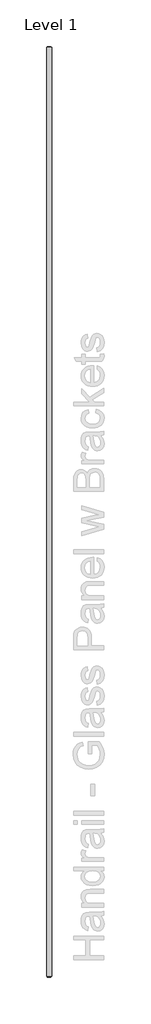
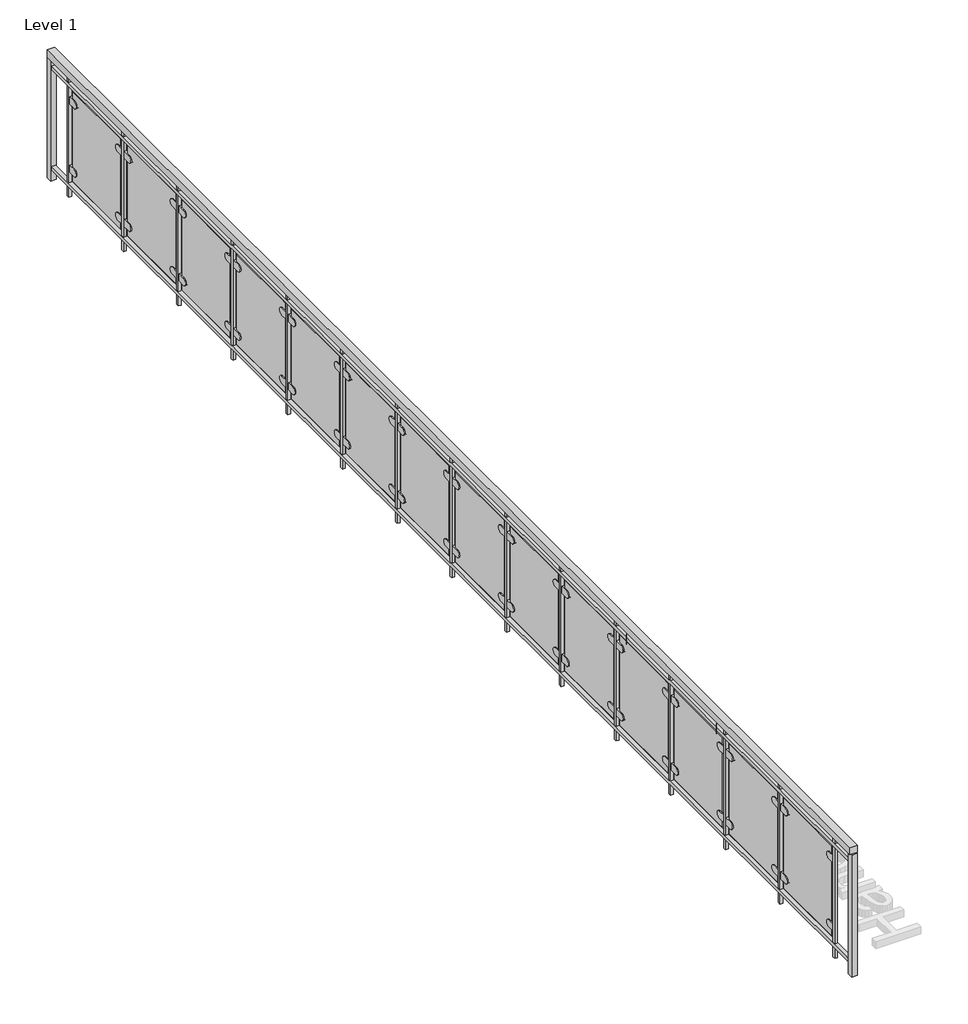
# One storey, part 3 of 14: 1 railing.
"""IFC4 building model written with IfcOpenShell, lengths in millimetres."""

from ifc_helpers import new_model, si_unit, point, frame, frame_2d, origin, origin_with_axes, place, context, project, spatial, polyline, circle_curve, trimmed, segment, composite_curve, outline, extrude, element, save

model = new_model("IFC4")

# Units and contexts
model_context = context("Model", 3, world=origin())
ifc_project = project(units=[si_unit("LENGTHUNIT", "METRE", prefix="MILLI")], contexts=[model_context])

# Site, building, storey
site = spatial("IfcSite", under=ifc_project)
building = spatial("IfcBuilding", under=site)
storey = spatial("IfcBuildingStorey", under=building, Name="Level 1", Elevation=0.0)

# Railing
placement = place(None, origin())
element("IfcRailing", 1, ObjectType="Handrail - Glass Panel w Brackets", at=placement, inside=storey, context=model_context, shape_type="SweptSolid", body=[
    extrude(outline(polyline([(-15264.3978678, -5345.4143828), (-15213.5978678, -5345.4143828), (-15213.5978678, -14660.8643828), (-15264.3978678, -14660.8643828), (-15264.3978678, -5345.4143828)])), frame((0.0, 0.0, 863.6), z_axis=(0.0, 0.0, 1.0), x_axis=(1.0, 0.0, 0.0)), (0.0, 0.0, 1.0), 50.8),
    extrude(outline(polyline([(-15251.6978678, -5345.4143828), (-15226.2978678, -5345.4143828), (-15226.2978678, -14660.8643828), (-15251.6978678, -14660.8643828), (-15251.6978678, -5345.4143828)])), frame((0.0, 0.0, 787.4), z_axis=(0.0, 0.0, 1.0), x_axis=(1.0, 0.0, 0.0)), (0.0, 0.0, 1.0), 25.4),
    extrude(outline(polyline([(-15251.6978678, -5345.4143828), (-15226.2978678, -5345.4143828), (-15226.2978678, -14660.8643828), (-15251.6978678, -14660.8643828), (-15251.6978678, -5345.4143828)])), frame((0.0, 0.0, 76.2), z_axis=(0.0, 0.0, 1.0), x_axis=(1.0, 0.0, 0.0)), (0.0, 0.0, 1.0), 25.4),
    extrude(outline(polyline([(-15248.5228678, -14438.6143828), (-15229.4728678, -14438.6143828), (-15229.4728678, -14457.6643828), (-15248.5228678, -14457.6643828), (-15248.5228678, -14438.6143828)])), origin_with_axes(), (0.0, 0.0, 1.0), 863.6),
    extrude(outline(composite_curve([segment(trimmed(circle_curve(frame_2d((-14384.6393828, 685.8)), 25.4), [point((-14384.6393828, 711.2))], [point((-14384.6393828, 660.4))], False, "CARTESIAN"), True, "CONTINUOUS"), segment(polyline([(-14384.6393828, 660.4), (-14435.4393828, 660.4), (-14435.4393828, 711.2), (-14384.6393828, 711.2)]), True, "CONTINUOUS")], self_intersect=False)), frame((-15245.3478678, 0.0, 0.0), z_axis=(1.0, 0.0, 0.0), x_axis=(0.0, 1.0, 0.0)), (0.0, 0.0, 1.0), 19.05),
    extrude(outline(composite_curve([segment(polyline([(-13876.6393828, 711.2), (-13825.8393828, 711.2), (-13825.8393828, 660.4), (-13876.6393828, 660.4)]), True, "CONTINUOUS"), segment(trimmed(circle_curve(frame_2d((-13876.6393828, 685.8)), 25.4), [point((-13876.6393828, 660.4))], [point((-13876.6393828, 711.2))], False, "CARTESIAN"), True, "CONTINUOUS")], self_intersect=False)), frame((-15245.3478678, 0.0, 0.0), z_axis=(1.0, 0.0, 0.0), x_axis=(0.0, 1.0, 0.0)), (0.0, 0.0, 1.0), 19.05),
    extrude(outline(composite_curve([segment(trimmed(circle_curve(frame_2d((-14384.6393828, 203.2)), 25.4), [point((-14384.6393828, 228.6))], [point((-14384.6393828, 177.8))], False, "CARTESIAN"), True, "CONTINUOUS"), segment(polyline([(-14384.6393828, 177.8), (-14435.4393828, 177.8), (-14435.4393828, 228.6), (-14384.6393828, 228.6)]), True, "CONTINUOUS")], self_intersect=False)), frame((-15245.3478678, 0.0, 0.0), z_axis=(1.0, 0.0, 0.0), x_axis=(0.0, 1.0, 0.0)), (0.0, 0.0, 1.0), 19.05),
    extrude(outline(composite_curve([segment(polyline([(-13876.6393828, 228.6), (-13825.8393828, 228.6), (-13825.8393828, 177.8), (-13876.6393828, 177.8)]), True, "CONTINUOUS"), segment(trimmed(circle_curve(frame_2d((-13876.6393828, 203.2)), 25.4), [point((-13876.6393828, 177.8))], [point((-13876.6393828, 228.6))], False, "CARTESIAN"), True, "CONTINUOUS")], self_intersect=False)), frame((-15245.3478678, 0.0, 0.0), z_axis=(1.0, 0.0, 0.0), x_axis=(0.0, 1.0, 0.0)), (0.0, 0.0, 1.0), 19.05),
    extrude(outline(polyline([(-15232.6478678, -13851.2393828), (-15232.6478678, -14410.0393828), (-15238.9978678, -14410.0393828), (-15238.9978678, -13851.2393828), (-15232.6478678, -13851.2393828)])), frame((0.0, 0.0, 127.0), z_axis=(0.0, 0.0, 1.0), x_axis=(1.0, 0.0, 0.0)), (0.0, 0.0, 1.0), 635.0),
    extrude(outline(polyline([(-15248.5228678, -13803.6143828), (-15229.4728678, -13803.6143828), (-15229.4728678, -13822.6643828), (-15248.5228678, -13822.6643828), (-15248.5228678, -13803.6143828)])), origin_with_axes(), (0.0, 0.0, 1.0), 863.6),
    extrude(outline(composite_curve([segment(trimmed(circle_curve(frame_2d((-13749.6393828, 685.8)), 25.4), [point((-13749.6393828, 711.2))], [point((-13749.6393828, 660.4))], False, "CARTESIAN"), True, "CONTINUOUS"), segment(polyline([(-13749.6393828, 660.4), (-13800.4393828, 660.4), (-13800.4393828, 711.2), (-13749.6393828, 711.2)]), True, "CONTINUOUS")], self_intersect=False)), frame((-15245.3478678, 0.0, 0.0), z_axis=(1.0, 0.0, 0.0), x_axis=(0.0, 1.0, 0.0)), (0.0, 0.0, 1.0), 19.05),
    extrude(outline(composite_curve([segment(polyline([(-13241.6393828, 711.2), (-13190.8393828, 711.2), (-13190.8393828, 660.4), (-13241.6393828, 660.4)]), True, "CONTINUOUS"), segment(trimmed(circle_curve(frame_2d((-13241.6393828, 685.8)), 25.4), [point((-13241.6393828, 660.4))], [point((-13241.6393828, 711.2))], False, "CARTESIAN"), True, "CONTINUOUS")], self_intersect=False)), frame((-15245.3478678, 0.0, 0.0), z_axis=(1.0, 0.0, 0.0), x_axis=(0.0, 1.0, 0.0)), (0.0, 0.0, 1.0), 19.05),
    extrude(outline(composite_curve([segment(trimmed(circle_curve(frame_2d((-13749.6393828, 203.2)), 25.4), [point((-13749.6393828, 228.6))], [point((-13749.6393828, 177.8))], False, "CARTESIAN"), True, "CONTINUOUS"), segment(polyline([(-13749.6393828, 177.8), (-13800.4393828, 177.8), (-13800.4393828, 228.6), (-13749.6393828, 228.6)]), True, "CONTINUOUS")], self_intersect=False)), frame((-15245.3478678, 0.0, 0.0), z_axis=(1.0, 0.0, 0.0), x_axis=(0.0, 1.0, 0.0)), (0.0, 0.0, 1.0), 19.05),
    extrude(outline(composite_curve([segment(polyline([(-13241.6393828, 228.6), (-13190.8393828, 228.6), (-13190.8393828, 177.8), (-13241.6393828, 177.8)]), True, "CONTINUOUS"), segment(trimmed(circle_curve(frame_2d((-13241.6393828, 203.2)), 25.4), [point((-13241.6393828, 177.8))], [point((-13241.6393828, 228.6))], False, "CARTESIAN"), True, "CONTINUOUS")], self_intersect=False)), frame((-15245.3478678, 0.0, 0.0), z_axis=(1.0, 0.0, 0.0), x_axis=(0.0, 1.0, 0.0)), (0.0, 0.0, 1.0), 19.05),
    extrude(outline(polyline([(-15232.6478678, -13216.2393828), (-15232.6478678, -13775.0393828), (-15238.9978678, -13775.0393828), (-15238.9978678, -13216.2393828), (-15232.6478678, -13216.2393828)])), frame((0.0, 0.0, 127.0), z_axis=(0.0, 0.0, 1.0), x_axis=(1.0, 0.0, 0.0)), (0.0, 0.0, 1.0), 635.0),
    extrude(outline(polyline([(-15248.5228678, -13168.6143828), (-15229.4728678, -13168.6143828), (-15229.4728678, -13187.6643828), (-15248.5228678, -13187.6643828), (-15248.5228678, -13168.6143828)])), origin_with_axes(), (0.0, 0.0, 1.0), 863.6),
    extrude(outline(composite_curve([segment(trimmed(circle_curve(frame_2d((-13114.6393828, 685.8)), 25.4), [point((-13114.6393828, 711.2))], [point((-13114.6393828, 660.4))], False, "CARTESIAN"), True, "CONTINUOUS"), segment(polyline([(-13114.6393828, 660.4), (-13165.4393828, 660.4), (-13165.4393828, 711.2), (-13114.6393828, 711.2)]), True, "CONTINUOUS")], self_intersect=False)), frame((-15245.3478678, 0.0, 0.0), z_axis=(1.0, 0.0, 0.0), x_axis=(0.0, 1.0, 0.0)), (0.0, 0.0, 1.0), 19.05),
    extrude(outline(composite_curve([segment(polyline([(-12606.6393828, 711.2), (-12555.8393828, 711.2), (-12555.8393828, 660.4), (-12606.6393828, 660.4)]), True, "CONTINUOUS"), segment(trimmed(circle_curve(frame_2d((-12606.6393828, 685.8)), 25.4), [point((-12606.6393828, 660.4))], [point((-12606.6393828, 711.2))], False, "CARTESIAN"), True, "CONTINUOUS")], self_intersect=False)), frame((-15245.3478678, 0.0, 0.0), z_axis=(1.0, 0.0, 0.0), x_axis=(0.0, 1.0, 0.0)), (0.0, 0.0, 1.0), 19.05),
    extrude(outline(composite_curve([segment(trimmed(circle_curve(frame_2d((-13114.6393828, 203.2)), 25.4), [point((-13114.6393828, 228.6))], [point((-13114.6393828, 177.8))], False, "CARTESIAN"), True, "CONTINUOUS"), segment(polyline([(-13114.6393828, 177.8), (-13165.4393828, 177.8), (-13165.4393828, 228.6), (-13114.6393828, 228.6)]), True, "CONTINUOUS")], self_intersect=False)), frame((-15245.3478678, 0.0, 0.0), z_axis=(1.0, 0.0, 0.0), x_axis=(0.0, 1.0, 0.0)), (0.0, 0.0, 1.0), 19.05),
    extrude(outline(composite_curve([segment(polyline([(-12606.6393828, 228.6), (-12555.8393828, 228.6), (-12555.8393828, 177.8), (-12606.6393828, 177.8)]), True, "CONTINUOUS"), segment(trimmed(circle_curve(frame_2d((-12606.6393828, 203.2)), 25.4), [point((-12606.6393828, 177.8))], [point((-12606.6393828, 228.6))], False, "CARTESIAN"), True, "CONTINUOUS")], self_intersect=False)), frame((-15245.3478678, 0.0, 0.0), z_axis=(1.0, 0.0, 0.0), x_axis=(0.0, 1.0, 0.0)), (0.0, 0.0, 1.0), 19.05),
    extrude(outline(polyline([(-15232.6478678, -12581.2393828), (-15232.6478678, -13140.0393828), (-15238.9978678, -13140.0393828), (-15238.9978678, -12581.2393828), (-15232.6478678, -12581.2393828)])), frame((0.0, 0.0, 127.0), z_axis=(0.0, 0.0, 1.0), x_axis=(1.0, 0.0, 0.0)), (0.0, 0.0, 1.0), 635.0),
    extrude(outline(polyline([(-15248.5228678, -12533.6143828), (-15229.4728678, -12533.6143828), (-15229.4728678, -12552.6643828), (-15248.5228678, -12552.6643828), (-15248.5228678, -12533.6143828)])), origin_with_axes(), (0.0, 0.0, 1.0), 863.6),
    extrude(outline(composite_curve([segment(trimmed(circle_curve(frame_2d((-12479.6393828, 685.8)), 25.4), [point((-12479.6393828, 711.2))], [point((-12479.6393828, 660.4))], False, "CARTESIAN"), True, "CONTINUOUS"), segment(polyline([(-12479.6393828, 660.4), (-12530.4393828, 660.4), (-12530.4393828, 711.2), (-12479.6393828, 711.2)]), True, "CONTINUOUS")], self_intersect=False)), frame((-15245.3478678, 0.0, 0.0), z_axis=(1.0, 0.0, 0.0), x_axis=(0.0, 1.0, 0.0)), (0.0, 0.0, 1.0), 19.05),
    extrude(outline(composite_curve([segment(polyline([(-11971.6393828, 711.2), (-11920.8393828, 711.2), (-11920.8393828, 660.4), (-11971.6393828, 660.4)]), True, "CONTINUOUS"), segment(trimmed(circle_curve(frame_2d((-11971.6393828, 685.8)), 25.4), [point((-11971.6393828, 660.4))], [point((-11971.6393828, 711.2))], False, "CARTESIAN"), True, "CONTINUOUS")], self_intersect=False)), frame((-15245.3478678, 0.0, 0.0), z_axis=(1.0, 0.0, 0.0), x_axis=(0.0, 1.0, 0.0)), (0.0, 0.0, 1.0), 19.05),
    extrude(outline(composite_curve([segment(trimmed(circle_curve(frame_2d((-12479.6393828, 203.2)), 25.4), [point((-12479.6393828, 228.6))], [point((-12479.6393828, 177.8))], False, "CARTESIAN"), True, "CONTINUOUS"), segment(polyline([(-12479.6393828, 177.8), (-12530.4393828, 177.8), (-12530.4393828, 228.6), (-12479.6393828, 228.6)]), True, "CONTINUOUS")], self_intersect=False)), frame((-15245.3478678, 0.0, 0.0), z_axis=(1.0, 0.0, 0.0), x_axis=(0.0, 1.0, 0.0)), (0.0, 0.0, 1.0), 19.05),
    extrude(outline(composite_curve([segment(polyline([(-11971.6393828, 228.6), (-11920.8393828, 228.6), (-11920.8393828, 177.8), (-11971.6393828, 177.8)]), True, "CONTINUOUS"), segment(trimmed(circle_curve(frame_2d((-11971.6393828, 203.2)), 25.4), [point((-11971.6393828, 177.8))], [point((-11971.6393828, 228.6))], False, "CARTESIAN"), True, "CONTINUOUS")], self_intersect=False)), frame((-15245.3478678, 0.0, 0.0), z_axis=(1.0, 0.0, 0.0), x_axis=(0.0, 1.0, 0.0)), (0.0, 0.0, 1.0), 19.05),
    extrude(outline(polyline([(-15232.6478678, -11946.2393828), (-15232.6478678, -12505.0393828), (-15238.9978678, -12505.0393828), (-15238.9978678, -11946.2393828), (-15232.6478678, -11946.2393828)])), frame((0.0, 0.0, 127.0), z_axis=(0.0, 0.0, 1.0), x_axis=(1.0, 0.0, 0.0)), (0.0, 0.0, 1.0), 635.0),
    extrude(outline(polyline([(-15248.5228678, -11898.6143828), (-15229.4728678, -11898.6143828), (-15229.4728678, -11917.6643828), (-15248.5228678, -11917.6643828), (-15248.5228678, -11898.6143828)])), origin_with_axes(), (0.0, 0.0, 1.0), 863.6),
    extrude(outline(composite_curve([segment(trimmed(circle_curve(frame_2d((-11844.6393828, 685.8)), 25.4), [point((-11844.6393828, 711.2))], [point((-11844.6393828, 660.4))], False, "CARTESIAN"), True, "CONTINUOUS"), segment(polyline([(-11844.6393828, 660.4), (-11895.4393828, 660.4), (-11895.4393828, 711.2), (-11844.6393828, 711.2)]), True, "CONTINUOUS")], self_intersect=False)), frame((-15245.3478678, 0.0, 0.0), z_axis=(1.0, 0.0, 0.0), x_axis=(0.0, 1.0, 0.0)), (0.0, 0.0, 1.0), 19.05),
    extrude(outline(composite_curve([segment(polyline([(-11336.6393828, 711.2), (-11285.8393828, 711.2), (-11285.8393828, 660.4), (-11336.6393828, 660.4)]), True, "CONTINUOUS"), segment(trimmed(circle_curve(frame_2d((-11336.6393828, 685.8)), 25.4), [point((-11336.6393828, 660.4))], [point((-11336.6393828, 711.2))], False, "CARTESIAN"), True, "CONTINUOUS")], self_intersect=False)), frame((-15245.3478678, 0.0, 0.0), z_axis=(1.0, 0.0, 0.0), x_axis=(0.0, 1.0, 0.0)), (0.0, 0.0, 1.0), 19.05),
    extrude(outline(composite_curve([segment(trimmed(circle_curve(frame_2d((-11844.6393828, 203.2)), 25.4), [point((-11844.6393828, 228.6))], [point((-11844.6393828, 177.8))], False, "CARTESIAN"), True, "CONTINUOUS"), segment(polyline([(-11844.6393828, 177.8), (-11895.4393828, 177.8), (-11895.4393828, 228.6), (-11844.6393828, 228.6)]), True, "CONTINUOUS")], self_intersect=False)), frame((-15245.3478678, 0.0, 0.0), z_axis=(1.0, 0.0, 0.0), x_axis=(0.0, 1.0, 0.0)), (0.0, 0.0, 1.0), 19.05),
    extrude(outline(composite_curve([segment(polyline([(-11336.6393828, 228.6), (-11285.8393828, 228.6), (-11285.8393828, 177.8), (-11336.6393828, 177.8)]), True, "CONTINUOUS"), segment(trimmed(circle_curve(frame_2d((-11336.6393828, 203.2)), 25.4), [point((-11336.6393828, 177.8))], [point((-11336.6393828, 228.6))], False, "CARTESIAN"), True, "CONTINUOUS")], self_intersect=False)), frame((-15245.3478678, 0.0, 0.0), z_axis=(1.0, 0.0, 0.0), x_axis=(0.0, 1.0, 0.0)), (0.0, 0.0, 1.0), 19.05),
    extrude(outline(polyline([(-15232.6478678, -11311.2393828), (-15232.6478678, -11870.0393828), (-15238.9978678, -11870.0393828), (-15238.9978678, -11311.2393828), (-15232.6478678, -11311.2393828)])), frame((0.0, 0.0, 127.0), z_axis=(0.0, 0.0, 1.0), x_axis=(1.0, 0.0, 0.0)), (0.0, 0.0, 1.0), 635.0),
    extrude(outline(polyline([(-15248.5228678, -11263.6143828), (-15229.4728678, -11263.6143828), (-15229.4728678, -11282.6643828), (-15248.5228678, -11282.6643828), (-15248.5228678, -11263.6143828)])), origin_with_axes(), (0.0, 0.0, 1.0), 863.6),
    extrude(outline(composite_curve([segment(trimmed(circle_curve(frame_2d((-11209.6393828, 685.8)), 25.4), [point((-11209.6393828, 711.2))], [point((-11209.6393828, 660.4))], False, "CARTESIAN"), True, "CONTINUOUS"), segment(polyline([(-11209.6393828, 660.4), (-11260.4393828, 660.4), (-11260.4393828, 711.2), (-11209.6393828, 711.2)]), True, "CONTINUOUS")], self_intersect=False)), frame((-15245.3478678, 0.0, 0.0), z_axis=(1.0, 0.0, 0.0), x_axis=(0.0, 1.0, 0.0)), (0.0, 0.0, 1.0), 19.05),
    extrude(outline(composite_curve([segment(polyline([(-10701.6393828, 711.2), (-10650.8393828, 711.2), (-10650.8393828, 660.4), (-10701.6393828, 660.4)]), True, "CONTINUOUS"), segment(trimmed(circle_curve(frame_2d((-10701.6393828, 685.8)), 25.4), [point((-10701.6393828, 660.4))], [point((-10701.6393828, 711.2))], False, "CARTESIAN"), True, "CONTINUOUS")], self_intersect=False)), frame((-15245.3478678, 0.0, 0.0), z_axis=(1.0, 0.0, 0.0), x_axis=(0.0, 1.0, 0.0)), (0.0, 0.0, 1.0), 19.05),
    extrude(outline(composite_curve([segment(trimmed(circle_curve(frame_2d((-11209.6393828, 203.2)), 25.4), [point((-11209.6393828, 228.6))], [point((-11209.6393828, 177.8))], False, "CARTESIAN"), True, "CONTINUOUS"), segment(polyline([(-11209.6393828, 177.8), (-11260.4393828, 177.8), (-11260.4393828, 228.6), (-11209.6393828, 228.6)]), True, "CONTINUOUS")], self_intersect=False)), frame((-15245.3478678, 0.0, 0.0), z_axis=(1.0, 0.0, 0.0), x_axis=(0.0, 1.0, 0.0)), (0.0, 0.0, 1.0), 19.05),
    extrude(outline(composite_curve([segment(polyline([(-10701.6393828, 228.6), (-10650.8393828, 228.6), (-10650.8393828, 177.8), (-10701.6393828, 177.8)]), True, "CONTINUOUS"), segment(trimmed(circle_curve(frame_2d((-10701.6393828, 203.2)), 25.4), [point((-10701.6393828, 177.8))], [point((-10701.6393828, 228.6))], False, "CARTESIAN"), True, "CONTINUOUS")], self_intersect=False)), frame((-15245.3478678, 0.0, 0.0), z_axis=(1.0, 0.0, 0.0), x_axis=(0.0, 1.0, 0.0)), (0.0, 0.0, 1.0), 19.05),
    extrude(outline(polyline([(-15232.6478678, -10676.2393828), (-15232.6478678, -11235.0393828), (-15238.9978678, -11235.0393828), (-15238.9978678, -10676.2393828), (-15232.6478678, -10676.2393828)])), frame((0.0, 0.0, 127.0), z_axis=(0.0, 0.0, 1.0), x_axis=(1.0, 0.0, 0.0)), (0.0, 0.0, 1.0), 635.0),
    extrude(outline(polyline([(-15248.5228678, -10628.6143828), (-15229.4728678, -10628.6143828), (-15229.4728678, -10647.6643828), (-15248.5228678, -10647.6643828), (-15248.5228678, -10628.6143828)])), origin_with_axes(), (0.0, 0.0, 1.0), 863.6),
    extrude(outline(composite_curve([segment(trimmed(circle_curve(frame_2d((-10574.6393828, 685.8)), 25.4), [point((-10574.6393828, 711.2))], [point((-10574.6393828, 660.4))], False, "CARTESIAN"), True, "CONTINUOUS"), segment(polyline([(-10574.6393828, 660.4), (-10625.4393828, 660.4), (-10625.4393828, 711.2), (-10574.6393828, 711.2)]), True, "CONTINUOUS")], self_intersect=False)), frame((-15245.3478678, 0.0, 0.0), z_axis=(1.0, 0.0, 0.0), x_axis=(0.0, 1.0, 0.0)), (0.0, 0.0, 1.0), 19.05),
    extrude(outline(composite_curve([segment(polyline([(-10066.6393828, 711.2), (-10015.8393828, 711.2), (-10015.8393828, 660.4), (-10066.6393828, 660.4)]), True, "CONTINUOUS"), segment(trimmed(circle_curve(frame_2d((-10066.6393828, 685.8)), 25.4), [point((-10066.6393828, 660.4))], [point((-10066.6393828, 711.2))], False, "CARTESIAN"), True, "CONTINUOUS")], self_intersect=False)), frame((-15245.3478678, 0.0, 0.0), z_axis=(1.0, 0.0, 0.0), x_axis=(0.0, 1.0, 0.0)), (0.0, 0.0, 1.0), 19.05),
    extrude(outline(composite_curve([segment(trimmed(circle_curve(frame_2d((-10574.6393828, 203.2)), 25.4), [point((-10574.6393828, 228.6))], [point((-10574.6393828, 177.8))], False, "CARTESIAN"), True, "CONTINUOUS"), segment(polyline([(-10574.6393828, 177.8), (-10625.4393828, 177.8), (-10625.4393828, 228.6), (-10574.6393828, 228.6)]), True, "CONTINUOUS")], self_intersect=False)), frame((-15245.3478678, 0.0, 0.0), z_axis=(1.0, 0.0, 0.0), x_axis=(0.0, 1.0, 0.0)), (0.0, 0.0, 1.0), 19.05),
    extrude(outline(composite_curve([segment(polyline([(-10066.6393828, 228.6), (-10015.8393828, 228.6), (-10015.8393828, 177.8), (-10066.6393828, 177.8)]), True, "CONTINUOUS"), segment(trimmed(circle_curve(frame_2d((-10066.6393828, 203.2)), 25.4), [point((-10066.6393828, 177.8))], [point((-10066.6393828, 228.6))], False, "CARTESIAN"), True, "CONTINUOUS")], self_intersect=False)), frame((-15245.3478678, 0.0, 0.0), z_axis=(1.0, 0.0, 0.0), x_axis=(0.0, 1.0, 0.0)), (0.0, 0.0, 1.0), 19.05),
    extrude(outline(polyline([(-15232.6478678, -10041.2393828), (-15232.6478678, -10600.0393828), (-15238.9978678, -10600.0393828), (-15238.9978678, -10041.2393828), (-15232.6478678, -10041.2393828)])), frame((0.0, 0.0, 127.0), z_axis=(0.0, 0.0, 1.0), x_axis=(1.0, 0.0, 0.0)), (0.0, 0.0, 1.0), 635.0),
    extrude(outline(polyline([(-15248.5228678, -9993.6143828), (-15229.4728678, -9993.6143828), (-15229.4728678, -10012.6643828), (-15248.5228678, -10012.6643828), (-15248.5228678, -9993.6143828)])), origin_with_axes(), (0.0, 0.0, 1.0), 863.6),
    extrude(outline(composite_curve([segment(trimmed(circle_curve(frame_2d((-9939.6393828, 685.8)), 25.4), [point((-9939.6393828, 711.2))], [point((-9939.6393828, 660.4))], False, "CARTESIAN"), True, "CONTINUOUS"), segment(polyline([(-9939.6393828, 660.4), (-9990.4393828, 660.4), (-9990.4393828, 711.2), (-9939.6393828, 711.2)]), True, "CONTINUOUS")], self_intersect=False)), frame((-15245.3478678, 0.0, 0.0), z_axis=(1.0, 0.0, 0.0), x_axis=(0.0, 1.0, 0.0)), (0.0, 0.0, 1.0), 19.05),
    extrude(outline(composite_curve([segment(polyline([(-9431.6393828, 711.2), (-9380.8393828, 711.2), (-9380.8393828, 660.4), (-9431.6393828, 660.4)]), True, "CONTINUOUS"), segment(trimmed(circle_curve(frame_2d((-9431.6393828, 685.8)), 25.4), [point((-9431.6393828, 660.4))], [point((-9431.6393828, 711.2))], False, "CARTESIAN"), True, "CONTINUOUS")], self_intersect=False)), frame((-15245.3478678, 0.0, 0.0), z_axis=(1.0, 0.0, 0.0), x_axis=(0.0, 1.0, 0.0)), (0.0, 0.0, 1.0), 19.05),
    extrude(outline(composite_curve([segment(trimmed(circle_curve(frame_2d((-9939.6393828, 203.2)), 25.4), [point((-9939.6393828, 228.6))], [point((-9939.6393828, 177.8))], False, "CARTESIAN"), True, "CONTINUOUS"), segment(polyline([(-9939.6393828, 177.8), (-9990.4393828, 177.8), (-9990.4393828, 228.6), (-9939.6393828, 228.6)]), True, "CONTINUOUS")], self_intersect=False)), frame((-15245.3478678, 0.0, 0.0), z_axis=(1.0, 0.0, 0.0), x_axis=(0.0, 1.0, 0.0)), (0.0, 0.0, 1.0), 19.05),
    extrude(outline(composite_curve([segment(polyline([(-9431.6393828, 228.6), (-9380.8393828, 228.6), (-9380.8393828, 177.8), (-9431.6393828, 177.8)]), True, "CONTINUOUS"), segment(trimmed(circle_curve(frame_2d((-9431.6393828, 203.2)), 25.4), [point((-9431.6393828, 177.8))], [point((-9431.6393828, 228.6))], False, "CARTESIAN"), True, "CONTINUOUS")], self_intersect=False)), frame((-15245.3478678, 0.0, 0.0), z_axis=(1.0, 0.0, 0.0), x_axis=(0.0, 1.0, 0.0)), (0.0, 0.0, 1.0), 19.05),
    extrude(outline(polyline([(-15232.6478678, -9406.2393828), (-15232.6478678, -9965.0393828), (-15238.9978678, -9965.0393828), (-15238.9978678, -9406.2393828), (-15232.6478678, -9406.2393828)])), frame((0.0, 0.0, 127.0), z_axis=(0.0, 0.0, 1.0), x_axis=(1.0, 0.0, 0.0)), (0.0, 0.0, 1.0), 635.0),
    extrude(outline(polyline([(-15248.5228678, -9358.6143828), (-15229.4728678, -9358.6143828), (-15229.4728678, -9377.6643828), (-15248.5228678, -9377.6643828), (-15248.5228678, -9358.6143828)])), origin_with_axes(), (0.0, 0.0, 1.0), 863.6),
    extrude(outline(composite_curve([segment(trimmed(circle_curve(frame_2d((-9304.6393828, 685.8)), 25.4), [point((-9304.6393828, 711.2))], [point((-9304.6393828, 660.4))], False, "CARTESIAN"), True, "CONTINUOUS"), segment(polyline([(-9304.6393828, 660.4), (-9355.4393828, 660.4), (-9355.4393828, 711.2), (-9304.6393828, 711.2)]), True, "CONTINUOUS")], self_intersect=False)), frame((-15245.3478678, 0.0, 0.0), z_axis=(1.0, 0.0, 0.0), x_axis=(0.0, 1.0, 0.0)), (0.0, 0.0, 1.0), 19.05),
    extrude(outline(composite_curve([segment(polyline([(-8796.6393828, 711.2), (-8745.8393828, 711.2), (-8745.8393828, 660.4), (-8796.6393828, 660.4)]), True, "CONTINUOUS"), segment(trimmed(circle_curve(frame_2d((-8796.6393828, 685.8)), 25.4), [point((-8796.6393828, 660.4))], [point((-8796.6393828, 711.2))], False, "CARTESIAN"), True, "CONTINUOUS")], self_intersect=False)), frame((-15245.3478678, 0.0, 0.0), z_axis=(1.0, 0.0, 0.0), x_axis=(0.0, 1.0, 0.0)), (0.0, 0.0, 1.0), 19.05),
    extrude(outline(composite_curve([segment(trimmed(circle_curve(frame_2d((-9304.6393828, 203.2)), 25.4), [point((-9304.6393828, 228.6))], [point((-9304.6393828, 177.8))], False, "CARTESIAN"), True, "CONTINUOUS"), segment(polyline([(-9304.6393828, 177.8), (-9355.4393828, 177.8), (-9355.4393828, 228.6), (-9304.6393828, 228.6)]), True, "CONTINUOUS")], self_intersect=False)), frame((-15245.3478678, 0.0, 0.0), z_axis=(1.0, 0.0, 0.0), x_axis=(0.0, 1.0, 0.0)), (0.0, 0.0, 1.0), 19.05),
    extrude(outline(composite_curve([segment(polyline([(-8796.6393828, 228.6), (-8745.8393828, 228.6), (-8745.8393828, 177.8), (-8796.6393828, 177.8)]), True, "CONTINUOUS"), segment(trimmed(circle_curve(frame_2d((-8796.6393828, 203.2)), 25.4), [point((-8796.6393828, 177.8))], [point((-8796.6393828, 228.6))], False, "CARTESIAN"), True, "CONTINUOUS")], self_intersect=False)), frame((-15245.3478678, 0.0, 0.0), z_axis=(1.0, 0.0, 0.0), x_axis=(0.0, 1.0, 0.0)), (0.0, 0.0, 1.0), 19.05),
    extrude(outline(polyline([(-15232.6478678, -8771.2393828), (-15232.6478678, -9330.0393828), (-15238.9978678, -9330.0393828), (-15238.9978678, -8771.2393828), (-15232.6478678, -8771.2393828)])), frame((0.0, 0.0, 127.0), z_axis=(0.0, 0.0, 1.0), x_axis=(1.0, 0.0, 0.0)), (0.0, 0.0, 1.0), 635.0),
    extrude(outline(polyline([(-15248.5228678, -8723.6143828), (-15229.4728678, -8723.6143828), (-15229.4728678, -8742.6643828), (-15248.5228678, -8742.6643828), (-15248.5228678, -8723.6143828)])), origin_with_axes(), (0.0, 0.0, 1.0), 863.6),
    extrude(outline(composite_curve([segment(trimmed(circle_curve(frame_2d((-8669.6393828, 685.8)), 25.4), [point((-8669.6393828, 711.2))], [point((-8669.6393828, 660.4))], False, "CARTESIAN"), True, "CONTINUOUS"), segment(polyline([(-8669.6393828, 660.4), (-8720.4393828, 660.4), (-8720.4393828, 711.2), (-8669.6393828, 711.2)]), True, "CONTINUOUS")], self_intersect=False)), frame((-15245.3478678, 0.0, 0.0), z_axis=(1.0, 0.0, 0.0), x_axis=(0.0, 1.0, 0.0)), (0.0, 0.0, 1.0), 19.05),
    extrude(outline(composite_curve([segment(polyline([(-8161.6393828, 711.2), (-8110.8393828, 711.2), (-8110.8393828, 660.4), (-8161.6393828, 660.4)]), True, "CONTINUOUS"), segment(trimmed(circle_curve(frame_2d((-8161.6393828, 685.8)), 25.4), [point((-8161.6393828, 660.4))], [point((-8161.6393828, 711.2))], False, "CARTESIAN"), True, "CONTINUOUS")], self_intersect=False)), frame((-15245.3478678, 0.0, 0.0), z_axis=(1.0, 0.0, 0.0), x_axis=(0.0, 1.0, 0.0)), (0.0, 0.0, 1.0), 19.05),
    extrude(outline(composite_curve([segment(trimmed(circle_curve(frame_2d((-8669.6393828, 203.2)), 25.4), [point((-8669.6393828, 228.6))], [point((-8669.6393828, 177.8))], False, "CARTESIAN"), True, "CONTINUOUS"), segment(polyline([(-8669.6393828, 177.8), (-8720.4393828, 177.8), (-8720.4393828, 228.6), (-8669.6393828, 228.6)]), True, "CONTINUOUS")], self_intersect=False)), frame((-15245.3478678, 0.0, 0.0), z_axis=(1.0, 0.0, 0.0), x_axis=(0.0, 1.0, 0.0)), (0.0, 0.0, 1.0), 19.05),
    extrude(outline(composite_curve([segment(polyline([(-8161.6393828, 228.6), (-8110.8393828, 228.6), (-8110.8393828, 177.8), (-8161.6393828, 177.8)]), True, "CONTINUOUS"), segment(trimmed(circle_curve(frame_2d((-8161.6393828, 203.2)), 25.4), [point((-8161.6393828, 177.8))], [point((-8161.6393828, 228.6))], False, "CARTESIAN"), True, "CONTINUOUS")], self_intersect=False)), frame((-15245.3478678, 0.0, 0.0), z_axis=(1.0, 0.0, 0.0), x_axis=(0.0, 1.0, 0.0)), (0.0, 0.0, 1.0), 19.05),
    extrude(outline(polyline([(-15232.6478678, -8136.2393828), (-15232.6478678, -8695.0393828), (-15238.9978678, -8695.0393828), (-15238.9978678, -8136.2393828), (-15232.6478678, -8136.2393828)])), frame((0.0, 0.0, 127.0), z_axis=(0.0, 0.0, 1.0), x_axis=(1.0, 0.0, 0.0)), (0.0, 0.0, 1.0), 635.0),
    extrude(outline(polyline([(-15248.5228678, -8088.6143828), (-15229.4728678, -8088.6143828), (-15229.4728678, -8107.6643828), (-15248.5228678, -8107.6643828), (-15248.5228678, -8088.6143828)])), origin_with_axes(), (0.0, 0.0, 1.0), 863.6),
    extrude(outline(composite_curve([segment(trimmed(circle_curve(frame_2d((-8034.6393828, 685.8)), 25.4), [point((-8034.6393828, 711.2))], [point((-8034.6393828, 660.4))], False, "CARTESIAN"), True, "CONTINUOUS"), segment(polyline([(-8034.6393828, 660.4), (-8085.4393828, 660.4), (-8085.4393828, 711.2), (-8034.6393828, 711.2)]), True, "CONTINUOUS")], self_intersect=False)), frame((-15245.3478678, 0.0, 0.0), z_axis=(1.0, 0.0, 0.0), x_axis=(0.0, 1.0, 0.0)), (0.0, 0.0, 1.0), 19.05),
    extrude(outline(composite_curve([segment(polyline([(-7526.6393828, 711.2), (-7475.8393828, 711.2), (-7475.8393828, 660.4), (-7526.6393828, 660.4)]), True, "CONTINUOUS"), segment(trimmed(circle_curve(frame_2d((-7526.6393828, 685.8)), 25.4), [point((-7526.6393828, 660.4))], [point((-7526.6393828, 711.2))], False, "CARTESIAN"), True, "CONTINUOUS")], self_intersect=False)), frame((-15245.3478678, 0.0, 0.0), z_axis=(1.0, 0.0, 0.0), x_axis=(0.0, 1.0, 0.0)), (0.0, 0.0, 1.0), 19.05),
    extrude(outline(composite_curve([segment(trimmed(circle_curve(frame_2d((-8034.6393828, 203.2)), 25.4), [point((-8034.6393828, 228.6))], [point((-8034.6393828, 177.8))], False, "CARTESIAN"), True, "CONTINUOUS"), segment(polyline([(-8034.6393828, 177.8), (-8085.4393828, 177.8), (-8085.4393828, 228.6), (-8034.6393828, 228.6)]), True, "CONTINUOUS")], self_intersect=False)), frame((-15245.3478678, 0.0, 0.0), z_axis=(1.0, 0.0, 0.0), x_axis=(0.0, 1.0, 0.0)), (0.0, 0.0, 1.0), 19.05),
    extrude(outline(composite_curve([segment(polyline([(-7526.6393828, 228.6), (-7475.8393828, 228.6), (-7475.8393828, 177.8), (-7526.6393828, 177.8)]), True, "CONTINUOUS"), segment(trimmed(circle_curve(frame_2d((-7526.6393828, 203.2)), 25.4), [point((-7526.6393828, 177.8))], [point((-7526.6393828, 228.6))], False, "CARTESIAN"), True, "CONTINUOUS")], self_intersect=False)), frame((-15245.3478678, 0.0, 0.0), z_axis=(1.0, 0.0, 0.0), x_axis=(0.0, 1.0, 0.0)), (0.0, 0.0, 1.0), 19.05),
    extrude(outline(polyline([(-15232.6478678, -7501.2393828), (-15232.6478678, -8060.0393828), (-15238.9978678, -8060.0393828), (-15238.9978678, -7501.2393828), (-15232.6478678, -7501.2393828)])), frame((0.0, 0.0, 127.0), z_axis=(0.0, 0.0, 1.0), x_axis=(1.0, 0.0, 0.0)), (0.0, 0.0, 1.0), 635.0),
    extrude(outline(polyline([(-15248.5228678, -7453.6143828), (-15229.4728678, -7453.6143828), (-15229.4728678, -7472.6643828), (-15248.5228678, -7472.6643828), (-15248.5228678, -7453.6143828)])), origin_with_axes(), (0.0, 0.0, 1.0), 863.6),
    extrude(outline(composite_curve([segment(trimmed(circle_curve(frame_2d((-7399.6393828, 685.8)), 25.4), [point((-7399.6393828, 711.2))], [point((-7399.6393828, 660.4))], False, "CARTESIAN"), True, "CONTINUOUS"), segment(polyline([(-7399.6393828, 660.4), (-7450.4393828, 660.4), (-7450.4393828, 711.2), (-7399.6393828, 711.2)]), True, "CONTINUOUS")], self_intersect=False)), frame((-15245.3478678, 0.0, 0.0), z_axis=(1.0, 0.0, 0.0), x_axis=(0.0, 1.0, 0.0)), (0.0, 0.0, 1.0), 19.05),
    extrude(outline(composite_curve([segment(polyline([(-6891.6393828, 711.2), (-6840.8393828, 711.2), (-6840.8393828, 660.4), (-6891.6393828, 660.4)]), True, "CONTINUOUS"), segment(trimmed(circle_curve(frame_2d((-6891.6393828, 685.8)), 25.4), [point((-6891.6393828, 660.4))], [point((-6891.6393828, 711.2))], False, "CARTESIAN"), True, "CONTINUOUS")], self_intersect=False)), frame((-15245.3478678, 0.0, 0.0), z_axis=(1.0, 0.0, 0.0), x_axis=(0.0, 1.0, 0.0)), (0.0, 0.0, 1.0), 19.05),
    extrude(outline(composite_curve([segment(trimmed(circle_curve(frame_2d((-7399.6393828, 203.2)), 25.4), [point((-7399.6393828, 228.6))], [point((-7399.6393828, 177.8))], False, "CARTESIAN"), True, "CONTINUOUS"), segment(polyline([(-7399.6393828, 177.8), (-7450.4393828, 177.8), (-7450.4393828, 228.6), (-7399.6393828, 228.6)]), True, "CONTINUOUS")], self_intersect=False)), frame((-15245.3478678, 0.0, 0.0), z_axis=(1.0, 0.0, 0.0), x_axis=(0.0, 1.0, 0.0)), (0.0, 0.0, 1.0), 19.05),
    extrude(outline(composite_curve([segment(polyline([(-6891.6393828, 228.6), (-6840.8393828, 228.6), (-6840.8393828, 177.8), (-6891.6393828, 177.8)]), True, "CONTINUOUS"), segment(trimmed(circle_curve(frame_2d((-6891.6393828, 203.2)), 25.4), [point((-6891.6393828, 177.8))], [point((-6891.6393828, 228.6))], False, "CARTESIAN"), True, "CONTINUOUS")], self_intersect=False)), frame((-15245.3478678, 0.0, 0.0), z_axis=(1.0, 0.0, 0.0), x_axis=(0.0, 1.0, 0.0)), (0.0, 0.0, 1.0), 19.05),
    extrude(outline(polyline([(-15232.6478678, -6866.2393828), (-15232.6478678, -7425.0393828), (-15238.9978678, -7425.0393828), (-15238.9978678, -6866.2393828), (-15232.6478678, -6866.2393828)])), frame((0.0, 0.0, 127.0), z_axis=(0.0, 0.0, 1.0), x_axis=(1.0, 0.0, 0.0)), (0.0, 0.0, 1.0), 635.0),
    extrude(outline(polyline([(-15248.5228678, -6818.6143828), (-15229.4728678, -6818.6143828), (-15229.4728678, -6837.6643828), (-15248.5228678, -6837.6643828), (-15248.5228678, -6818.6143828)])), origin_with_axes(), (0.0, 0.0, 1.0), 863.6),
    extrude(outline(composite_curve([segment(trimmed(circle_curve(frame_2d((-6764.6393828, 685.8)), 25.4), [point((-6764.6393828, 711.2))], [point((-6764.6393828, 660.4))], False, "CARTESIAN"), True, "CONTINUOUS"), segment(polyline([(-6764.6393828, 660.4), (-6815.4393828, 660.4), (-6815.4393828, 711.2), (-6764.6393828, 711.2)]), True, "CONTINUOUS")], self_intersect=False)), frame((-15245.3478678, 0.0, 0.0), z_axis=(1.0, 0.0, 0.0), x_axis=(0.0, 1.0, 0.0)), (0.0, 0.0, 1.0), 19.05),
    extrude(outline(composite_curve([segment(polyline([(-6256.6393828, 711.2), (-6205.8393828, 711.2), (-6205.8393828, 660.4), (-6256.6393828, 660.4)]), True, "CONTINUOUS"), segment(trimmed(circle_curve(frame_2d((-6256.6393828, 685.8)), 25.4), [point((-6256.6393828, 660.4))], [point((-6256.6393828, 711.2))], False, "CARTESIAN"), True, "CONTINUOUS")], self_intersect=False)), frame((-15245.3478678, 0.0, 0.0), z_axis=(1.0, 0.0, 0.0), x_axis=(0.0, 1.0, 0.0)), (0.0, 0.0, 1.0), 19.05),
    extrude(outline(composite_curve([segment(trimmed(circle_curve(frame_2d((-6764.6393828, 203.2)), 25.4), [point((-6764.6393828, 228.6))], [point((-6764.6393828, 177.8))], False, "CARTESIAN"), True, "CONTINUOUS"), segment(polyline([(-6764.6393828, 177.8), (-6815.4393828, 177.8), (-6815.4393828, 228.6), (-6764.6393828, 228.6)]), True, "CONTINUOUS")], self_intersect=False)), frame((-15245.3478678, 0.0, 0.0), z_axis=(1.0, 0.0, 0.0), x_axis=(0.0, 1.0, 0.0)), (0.0, 0.0, 1.0), 19.05),
    extrude(outline(composite_curve([segment(polyline([(-6256.6393828, 228.6), (-6205.8393828, 228.6), (-6205.8393828, 177.8), (-6256.6393828, 177.8)]), True, "CONTINUOUS"), segment(trimmed(circle_curve(frame_2d((-6256.6393828, 203.2)), 25.4), [point((-6256.6393828, 177.8))], [point((-6256.6393828, 228.6))], False, "CARTESIAN"), True, "CONTINUOUS")], self_intersect=False)), frame((-15245.3478678, 0.0, 0.0), z_axis=(1.0, 0.0, 0.0), x_axis=(0.0, 1.0, 0.0)), (0.0, 0.0, 1.0), 19.05),
    extrude(outline(polyline([(-15232.6478678, -6231.2393828), (-15232.6478678, -6790.0393828), (-15238.9978678, -6790.0393828), (-15238.9978678, -6231.2393828), (-15232.6478678, -6231.2393828)])), frame((0.0, 0.0, 127.0), z_axis=(0.0, 0.0, 1.0), x_axis=(1.0, 0.0, 0.0)), (0.0, 0.0, 1.0), 635.0),
    extrude(outline(polyline([(-15248.5228678, -6183.6143828), (-15229.4728678, -6183.6143828), (-15229.4728678, -6202.6643828), (-15248.5228678, -6202.6643828), (-15248.5228678, -6183.6143828)])), origin_with_axes(), (0.0, 0.0, 1.0), 863.6),
    extrude(outline(composite_curve([segment(trimmed(circle_curve(frame_2d((-6129.6393828, 685.8)), 25.4), [point((-6129.6393828, 711.2))], [point((-6129.6393828, 660.4))], False, "CARTESIAN"), True, "CONTINUOUS"), segment(polyline([(-6129.6393828, 660.4), (-6180.4393828, 660.4), (-6180.4393828, 711.2), (-6129.6393828, 711.2)]), True, "CONTINUOUS")], self_intersect=False)), frame((-15245.3478678, 0.0, 0.0), z_axis=(1.0, 0.0, 0.0), x_axis=(0.0, 1.0, 0.0)), (0.0, 0.0, 1.0), 19.05),
    extrude(outline(composite_curve([segment(polyline([(-5621.6393828, 711.2), (-5570.8393828, 711.2), (-5570.8393828, 660.4), (-5621.6393828, 660.4)]), True, "CONTINUOUS"), segment(trimmed(circle_curve(frame_2d((-5621.6393828, 685.8)), 25.4), [point((-5621.6393828, 660.4))], [point((-5621.6393828, 711.2))], False, "CARTESIAN"), True, "CONTINUOUS")], self_intersect=False)), frame((-15245.3478678, 0.0, 0.0), z_axis=(1.0, 0.0, 0.0), x_axis=(0.0, 1.0, 0.0)), (0.0, 0.0, 1.0), 19.05),
    extrude(outline(composite_curve([segment(trimmed(circle_curve(frame_2d((-6129.6393828, 203.2)), 25.4), [point((-6129.6393828, 228.6))], [point((-6129.6393828, 177.8))], False, "CARTESIAN"), True, "CONTINUOUS"), segment(polyline([(-6129.6393828, 177.8), (-6180.4393828, 177.8), (-6180.4393828, 228.6), (-6129.6393828, 228.6)]), True, "CONTINUOUS")], self_intersect=False)), frame((-15245.3478678, 0.0, 0.0), z_axis=(1.0, 0.0, 0.0), x_axis=(0.0, 1.0, 0.0)), (0.0, 0.0, 1.0), 19.05),
    extrude(outline(composite_curve([segment(polyline([(-5621.6393828, 228.6), (-5570.8393828, 228.6), (-5570.8393828, 177.8), (-5621.6393828, 177.8)]), True, "CONTINUOUS"), segment(trimmed(circle_curve(frame_2d((-5621.6393828, 203.2)), 25.4), [point((-5621.6393828, 177.8))], [point((-5621.6393828, 228.6))], False, "CARTESIAN"), True, "CONTINUOUS")], self_intersect=False)), frame((-15245.3478678, 0.0, 0.0), z_axis=(1.0, 0.0, 0.0), x_axis=(0.0, 1.0, 0.0)), (0.0, 0.0, 1.0), 19.05),
    extrude(outline(polyline([(-15232.6478678, -5596.2393828), (-15232.6478678, -6155.0393828), (-15238.9978678, -6155.0393828), (-15238.9978678, -5596.2393828), (-15232.6478678, -5596.2393828)])), frame((0.0, 0.0, 127.0), z_axis=(0.0, 0.0, 1.0), x_axis=(1.0, 0.0, 0.0)), (0.0, 0.0, 1.0), 635.0),
    extrude(outline(polyline([(-15248.5228678, -5548.6143828), (-15229.4728678, -5548.6143828), (-15229.4728678, -5567.6643828), (-15248.5228678, -5567.6643828), (-15248.5228678, -5548.6143828)])), origin_with_axes(), (0.0, 0.0, 1.0), 863.6),
    extrude(outline(polyline([(-15258.0478678, -14632.2893828), (-15219.9478678, -14632.2893828), (-15219.9478678, -14670.3893828), (-15258.0478678, -14670.3893828), (-15258.0478678, -14632.2893828)])), origin_with_axes(), (0.0, 0.0, 1.0), 863.6),
    extrude(outline(polyline([(-15258.0478678, -5335.8893828), (-15219.9478678, -5335.8893828), (-15219.9478678, -5373.9893828), (-15258.0478678, -5373.9893828), (-15258.0478678, -5335.8893828)])), origin_with_axes(), (0.0, 0.0, 1.0), 863.6),
])

save(model, "model.ifc")
